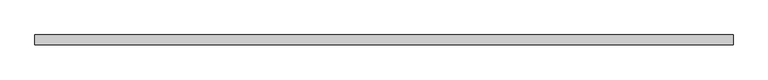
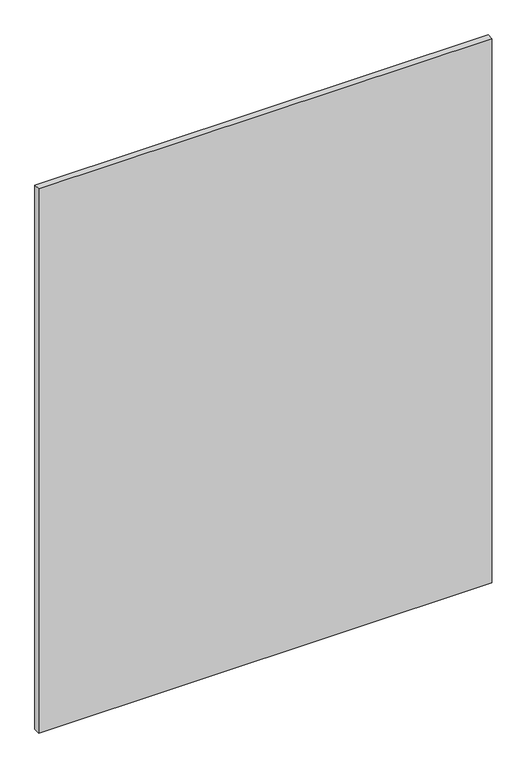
"""IFC4 building model written with IfcOpenShell, lengths in millimetres: plate geometry, 系统嵌板 : 玻璃."""

from ifc_helpers import new_model, si_unit, origin, origin_with_axes, place, context, project, spatial, polyline, outline, extrude, source, transform, mapped, element, save


def plate_45b696d9(model_context):
    return source(origin(), model_context, "Body", "SweptSolid", [
        extrude(outline(polyline([(894.1666667, -12.5), (-894.1666667, -12.5), (-894.1666667, 12.5), (894.1666667, 12.5), (894.1666667, -12.5)])), origin_with_axes(), (0.0, 0.0, 1.0), 2270.0),
    ])


if __name__ == "__main__":
    model = new_model("IFC4")
    model_context = context("Model", 3, world=origin())
    ifc_project = project(units=[si_unit("LENGTHUNIT", "METRE", prefix="MILLI")], contexts=[model_context])
    site = spatial("IfcSite", under=ifc_project)
    building = spatial("IfcBuilding", under=site)
    placement = place(None, origin())
    plate_shape = plate_45b696d9(model_context)
    element("IfcPlate", 1, ObjectType="系统嵌板 : 玻璃", at=placement, inside=building, context=model_context, shape_type="MappedRepresentation", body=[
        mapped(plate_shape, transform((0.0, 0.0, 0.0), x_axis=(1.0, 0.0, 0.0), y_axis=(0.0, 1.0, 0.0), z_axis=(0.0, 0.0, 1.0))),
    ])
    save(model, "model.ifc")
